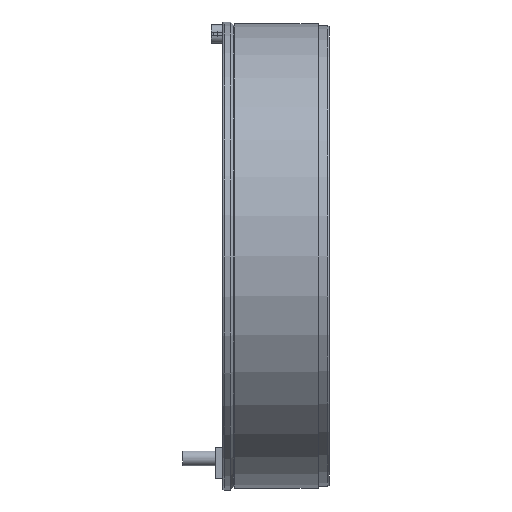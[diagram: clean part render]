
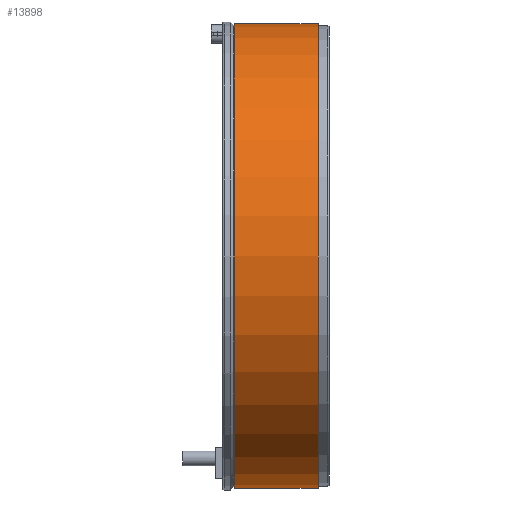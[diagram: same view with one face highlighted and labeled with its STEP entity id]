
A CAD part, left-side view. The second image highlights one B-rep face of the part: STEP entity #13898.
In plain terms, the highlighted cylindrical face has radius 284 mm (diameter 568 mm), a partial arc.
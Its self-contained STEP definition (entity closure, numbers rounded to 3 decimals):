
#96 = EDGE_CURVE ( 'NONE', #2999, #1152, #8160, .T. ) ;
#165 = CARTESIAN_POINT ( 'NONE',  ( 0., 13.5, 284. ) ) ;
#260 = DIRECTION ( 'NONE',  ( 0., -1., 0. ) ) ;
#332 = CIRCLE ( 'NONE', #1641, 284. ) ;
#355 = DIRECTION ( 'NONE',  ( 0., -1., 0. ) ) ;
#376 = FACE_OUTER_BOUND ( 'NONE', #6034, .T. ) ;
#1003 = CARTESIAN_POINT ( 'NONE',  ( 0., 116., 284. ) ) ;
#1152 = VERTEX_POINT ( 'NONE', #165 ) ;
#1641 = AXIS2_PLACEMENT_3D ( 'NONE', #9452, #9546, #6141 ) ;
#2949 = AXIS2_PLACEMENT_3D ( 'NONE', #5024, #9540, #7190 ) ;
#2999 = VERTEX_POINT ( 'NONE', #1003 ) ;
#4012 = VECTOR ( 'NONE', #260, 1000. ) ;
#4720 = CARTESIAN_POINT ( 'NONE',  ( 0., 0., -284. ) ) ;
#4921 = CARTESIAN_POINT ( 'NONE',  ( 0., 0., 284. ) ) ;
#5024 = CARTESIAN_POINT ( 'NONE',  ( 0., 0., 0. ) ) ;
#5335 = ORIENTED_EDGE ( 'NONE', *, *, #14420, .T. ) ;
#6034 = EDGE_LOOP ( 'NONE', ( #6477, #9470, #5335, #14748 ) ) ;
#6041 = DIRECTION ( 'NONE',  ( 0., 0., -1. ) ) ;
#6141 = DIRECTION ( 'NONE',  ( 0., 0., -1. ) ) ;
#6477 = ORIENTED_EDGE ( 'NONE', *, *, #96, .F. ) ;
#6513 = CIRCLE ( 'NONE', #12981, 284. ) ;
#7190 = DIRECTION ( 'NONE',  ( 0., 0., -1. ) ) ;
#7208 = VERTEX_POINT ( 'NONE', #12818 ) ;
#7899 = VERTEX_POINT ( 'NONE', #14195 ) ;
#8160 = LINE ( 'NONE', #4921, #13404 ) ;
#9452 = CARTESIAN_POINT ( 'NONE',  ( 0., 13.5, 0. ) ) ;
#9470 = ORIENTED_EDGE ( 'NONE', *, *, #13926, .T. ) ;
#9540 = DIRECTION ( 'NONE',  ( 0., -1., 0. ) ) ;
#9546 = DIRECTION ( 'NONE',  ( 0., -1., 0. ) ) ;
#9947 = EDGE_CURVE ( 'NONE', #1152, #7899, #332, .T. ) ;
#12818 = CARTESIAN_POINT ( 'NONE',  ( 0., 116., -284. ) ) ;
#12981 = AXIS2_PLACEMENT_3D ( 'NONE', #14145, #13098, #6041 ) ;
#13098 = DIRECTION ( 'NONE',  ( 0., -1., 0. ) ) ;
#13189 = LINE ( 'NONE', #4720, #4012 ) ;
#13404 = VECTOR ( 'NONE', #355, 1000. ) ;
#13724 = CYLINDRICAL_SURFACE ( 'NONE', #2949, 284. ) ;
#13898 = ADVANCED_FACE ( 'NONE', ( #376 ), #13724, .T. ) ;
#13926 = EDGE_CURVE ( 'NONE', #2999, #7208, #6513, .T. ) ;
#14145 = CARTESIAN_POINT ( 'NONE',  ( 0., 116., 0. ) ) ;
#14195 = CARTESIAN_POINT ( 'NONE',  ( 0., 13.5, -284. ) ) ;
#14420 = EDGE_CURVE ( 'NONE', #7208, #7899, #13189, .T. ) ;
#14748 = ORIENTED_EDGE ( 'NONE', *, *, #9947, .F. ) ;
